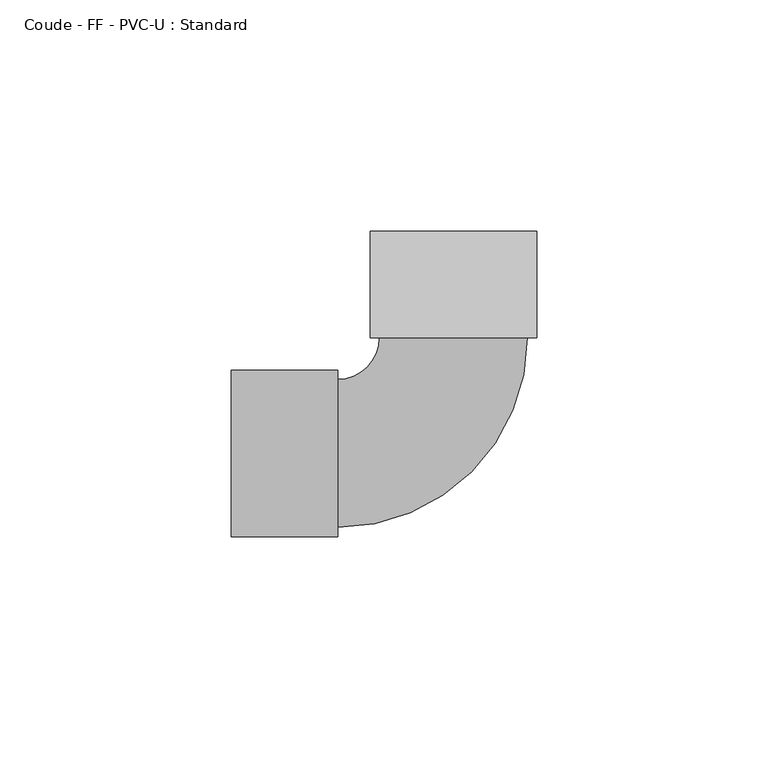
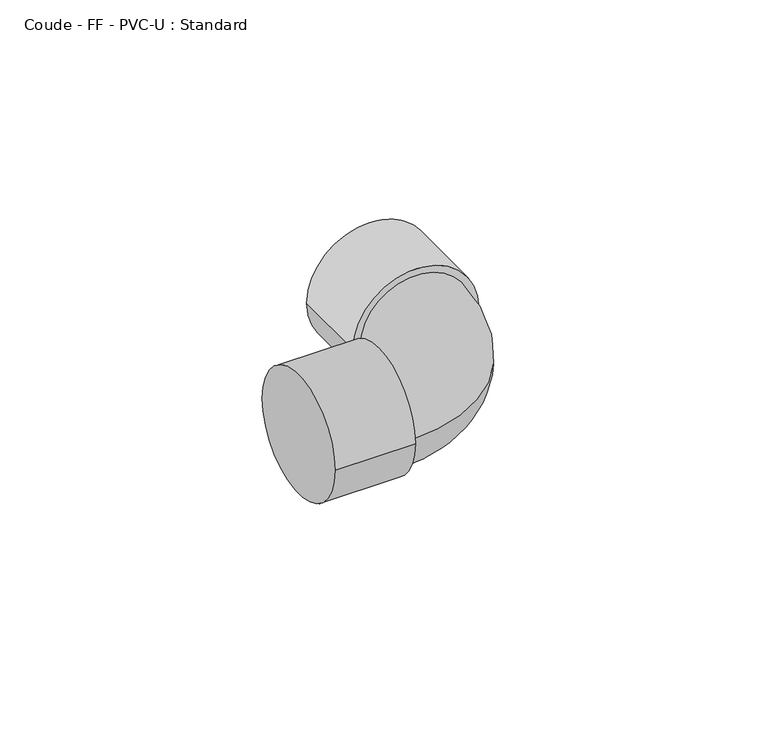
"""IFC4 building model written with IfcOpenShell, lengths in millimetres: pipe fitting geometry, Coude - FF - PVC-U : Standard."""

from ifc_helpers import new_model, si_unit, point, frame, origin, place, context, project, spatial, circle_curve, ellipse_curve, trimmed, source, transform, mapped, element, save
from ifc_brep_helpers import plane_surface, cylinder_surface, revolved_surface, advanced_brep


def coude_ff_pvc_u_standard_7b84f3ba(model_context):
    return source(origin(), model_context, "Body", "AdvancedBrep", [
        advanced_brep(
        [(-48.0, -18.0, 0.0), (-48.0, 18.0, 0.0), (-25.0, -18.0, 0.0), (-25.0, 18.0, 0.0), (-25.0, -16.0, 0.0), (-25.0, 16.0, 0.0), (-15.9685923, 25.0200732, 0.0), (16.0313825, 24.9798874, 0.0), (18.0313809, 24.9773758, 0.0), (-17.9685907, 25.0225848, 0.0), (18.0602644, 47.9773577, 0.0), (-17.9397072, 48.0225666, 0.0)],
        [
            (0, 1, circle_curve(frame((-48.0, 0.0, 0.0), z_axis=(-1.0, 0.0, 0.0), x_axis=(0.0, 1.0, 0.0)), 18.0)),
            (1, 0, circle_curve(frame((-48.0, 0.0, 0.0), z_axis=(-1.0, 0.0, 0.0), x_axis=(0.0, 1.0, 0.0)), 18.0)),
            (2, 3, circle_curve(frame((-25.0, 0.0, 0.0), z_axis=(1.0, 0.0, 0.0), x_axis=(0.0, 1.0, 0.0)), 18.0)),
            (3, 2, circle_curve(frame((-25.0, 0.0, 0.0), z_axis=(1.0, 0.0, 0.0), x_axis=(0.0, 1.0, 0.0)), 18.0)),
            (4, 5, circle_curve(frame((-25.0, 0.0, 0.0), z_axis=(-1.0, 0.0, 0.0), x_axis=(0.0, 1.0, 0.0)), 16.0)),
            (5, 4, circle_curve(frame((-25.0, 0.0, 0.0), z_axis=(-1.0, 0.0, 0.0), x_axis=(0.0, 1.0, 0.0)), 16.0)),
            (0, 2),
            (3, 1),
            (6, 5, circle_curve(frame((-25.0, 25.0314149, 0.0), z_axis=(0.0, 0.0, -1.0), x_axis=(0.0, -1.0, 0.0)), 9.0314149)),
            (4, 7, circle_curve(frame((-25.0, 25.0314149, 0.0), z_axis=(0.0, 0.0, 1.0), x_axis=(0.0, -1.0, 0.0)), 41.0314149)),
            (7, 6, circle_curve(frame((0.0313951, 24.9999803, 0.0), z_axis=(-0.001255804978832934, -0.9999992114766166, 0.0), x_axis=(-0.9999992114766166, 0.001255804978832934, 0.0)), 16.0)),
            (6, 7, circle_curve(frame((0.0313951, 24.9999803, 0.0), z_axis=(-0.001255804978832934, -0.9999992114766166, 0.0), x_axis=(-0.9999992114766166, 0.001255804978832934, 0.0)), 16.0)),
            (8, 9, circle_curve(frame((0.0313951, 24.9999803, 0.0), z_axis=(-0.0012558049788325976, -0.9999992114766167, 0.0), x_axis=(-0.9999992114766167, 0.0012558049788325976, 0.0)), 18.0)),
            (9, 8, circle_curve(frame((0.0313951, 24.9999803, 0.0), z_axis=(-0.0012558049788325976, -0.9999992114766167, 0.0), x_axis=(-0.9999992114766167, 0.0012558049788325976, 0.0)), 18.0)),
            (10, 11, circle_curve(frame((0.0602786, 47.9999622, 0.0), z_axis=(0.0012558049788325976, 0.9999992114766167, 0.0), x_axis=(-0.9999992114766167, 0.0012558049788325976, 0.0)), 18.0)),
            (11, 10, circle_curve(frame((0.0602786, 47.9999622, 0.0), z_axis=(0.0012558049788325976, 0.9999992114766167, 0.0), x_axis=(-0.9999992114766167, 0.0012558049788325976, 0.0)), 18.0)),
            (8, 10),
            (11, 9),
        ],
        [
            plane_surface(frame((-48.0, 0.0, 0.0), z_axis=(-1.0, 0.0, 0.0), x_axis=(0.0, 0.0, 1.0))),
            plane_surface(frame((-25.0, 0.0, 0.0), z_axis=(1.0, 0.0, 0.0), x_axis=(0.0, 0.0, 1.0))),
            cylinder_surface(frame((-48.0, 0.0, 0.0), z_axis=(-1.0, 0.0, 0.0), x_axis=(0.0, 1.0, 0.0)), 18.0),
            revolved_surface(trimmed(ellipse_curve(frame((-25.0, 0.0, 0.0), z_axis=(-1.0, 0.0, 0.0), x_axis=(0.0, 1.0, 0.0)), 16.0, 16.0), [point((-25.0, -16.0, 0.0))], [point((-25.0, 16.0, 0.0))], True, "CARTESIAN"), (-25.0, 25.0314149, 0.0), (0.0, 0.0, 1.0)),
            revolved_surface(trimmed(ellipse_curve(frame((-25.0, 0.0, 0.0), z_axis=(-1.0, 0.0, 0.0), x_axis=(0.0, 1.0, 0.0)), 16.0, 16.0), [point((-25.0, 16.0, 0.0))], [point((-25.0, -16.0, 0.0))], True, "CARTESIAN"), (-25.0, 25.0314149, 0.0), (0.0, 0.0, 1.0)),
            plane_surface(frame((0.0313951, 24.9999803, 0.0), z_axis=(-0.0012558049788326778, -0.9999992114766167, 0.0), x_axis=(0.0, 0.0, 1.0))),
            plane_surface(frame((0.0602786, 47.9999622, 0.0), z_axis=(0.0012558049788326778, 0.9999992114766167, 0.0), x_axis=(0.0, 0.0, 1.0))),
            cylinder_surface(frame((0.0313951, 24.9999803, 0.0), z_axis=(-0.0012558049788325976, -0.9999992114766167, 0.0), x_axis=(-0.9999992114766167, 0.0012558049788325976, 0.0)), 18.0),
        ],
        [
            (0, [[1, 2]]),
            (1, [[3, 4], [5, 6]]),
            (2, [[-1, 7, -4, 8]]),
            (2, [[-2, -8, -3, -7]]),
            (3, [[9, -5, 10, 11]]),
            (4, [[-9, 12, -10, -6]]),
            (5, [[13, 14], [-11, -12]]),
            (6, [[15, 16]]),
            (7, [[-13, 17, -16, 18]]),
            (7, [[-14, -18, -15, -17]]),
        ],
    ),
    ])


if __name__ == "__main__":
    model = new_model("IFC4")
    model_context = context("Model", 3, world=origin())
    ifc_project = project(units=[si_unit("LENGTHUNIT", "METRE", prefix="MILLI")], contexts=[model_context])
    site = spatial("IfcSite", under=ifc_project)
    building = spatial("IfcBuilding", under=site)
    placement = place(None, origin())
    coude_ff_pvc_u_standard_shape = coude_ff_pvc_u_standard_7b84f3ba(model_context)
    element("IfcPipeFitting", 1, ObjectType="Coude - FF - PVC-U : Standard", at=placement, inside=building, context=model_context, shape_type="MappedRepresentation", body=[
        mapped(coude_ff_pvc_u_standard_shape, transform((0.0, 0.0, 0.0), x_axis=(1.0, 0.0, 0.0), y_axis=(0.0, 1.0, 0.0), z_axis=(0.0, 0.0, 1.0))),
    ])
    save(model, "model.ifc")
